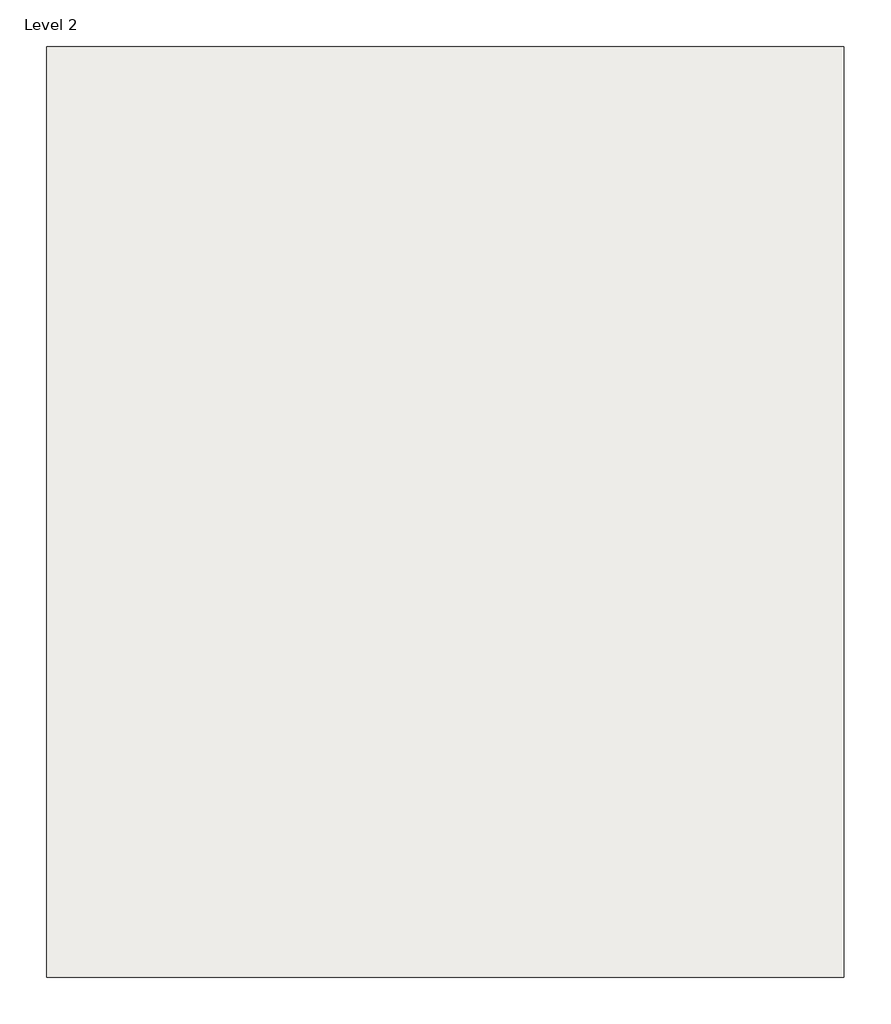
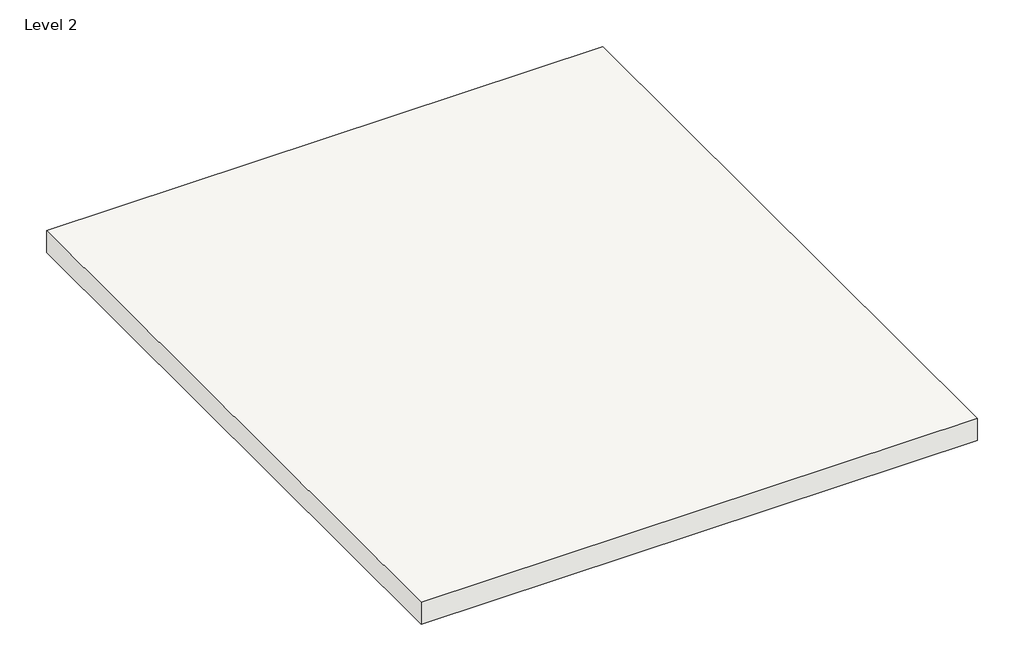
# One storey: 1 slab.
"""IFC4 building model written with IfcOpenShell, lengths in millimetres."""

from ifc_helpers import new_model, si_unit, origin, place, context, project, spatial, faceted_brep, element, save

model = new_model("IFC4")

# Units and contexts
model_context = context("Model", 3, world=origin())
ifc_project = project(units=[si_unit("LENGTHUNIT", "METRE", prefix="MILLI")], contexts=[model_context])

# Site, building, storey
site = spatial("IfcSite", under=ifc_project)
building = spatial("IfcBuilding", under=site)
storey = spatial("IfcBuildingStorey", under=building, Name="Level 2", Elevation=2550.0)

# Slab
placement = place(None, origin())
element("IfcSlab", 1, ObjectType="Generic 150mm", at=placement, inside=storey, context=model_context, shape_type="Brep", body=[
    faceted_brep([(-5713.7646331, 7438.1650236, 2400.0), (-5713.7646331, 3238.1650236, 2400.0), (-9313.7646331, 3238.1650236, 2400.0), (-9313.7646331, 7438.1650236, 2400.0), (-8480.6659036, 6398.741258, 2400.0), (-8480.6659036, 6298.741258, 2400.0), (-8380.6659036, 6298.741258, 2400.0), (-8380.6659036, 6398.741258, 2400.0), (-7300.6659036, 6378.741258, 2400.0), (-7300.6659036, 6278.741258, 2400.0), (-7200.6659036, 6278.741258, 2400.0), (-7200.6659036, 6378.741258, 2400.0), (-8480.6659036, 4238.741258, 2400.0), (-8480.6659036, 4138.741258, 2400.0), (-8380.6659036, 4138.741258, 2400.0), (-8380.6659036, 4238.741258, 2400.0), (-7300.6659036, 4218.741258, 2400.0), (-7300.6659036, 4118.741258, 2400.0), (-7200.6659036, 4118.741258, 2400.0), (-7200.6659036, 4218.741258, 2400.0), (-8480.6659036, 5658.741258, 2400.0), (-8480.6659036, 5558.741258, 2400.0), (-8380.6659036, 5558.741258, 2400.0), (-8380.6659036, 5658.741258, 2400.0), (-7300.6659036, 5638.741258, 2400.0), (-7300.6659036, 5538.741258, 2400.0), (-7200.6659036, 5538.741258, 2400.0), (-7200.6659036, 5638.741258, 2400.0), (-8480.6659036, 4898.741258, 2400.0), (-8480.6659036, 4798.741258, 2400.0), (-8380.6659036, 4798.741258, 2400.0), (-8380.6659036, 4898.741258, 2400.0), (-7300.6659036, 4878.741258, 2400.0), (-7300.6659036, 4778.741258, 2400.0), (-7200.6659036, 4778.741258, 2400.0), (-7200.6659036, 4878.741258, 2400.0), (-5713.7646331, 3238.1650236, 2550.0), (-5713.7646331, 7438.1650236, 2550.0), (-9313.7646331, 7438.1650236, 2550.0), (-9313.7646331, 3238.1650236, 2550.0), (-8480.6659036, 6298.741258, 2517.5000648), (-8480.6659036, 6398.741258, 2517.5000648), (-8380.6659036, 6398.741258, 2517.5000648), (-8380.6659036, 6298.741258, 2517.5000648), (-7300.6659036, 6278.741258, 2517.5000648), (-7300.6659036, 6378.741258, 2517.5000648), (-7200.6659036, 6378.741258, 2517.5000648), (-7200.6659036, 6278.741258, 2517.5000648), (-8480.6659036, 4138.741258, 2517.5000648), (-8480.6659036, 4238.741258, 2517.5000648), (-8380.6659036, 4238.741258, 2517.5000648), (-8380.6659036, 4138.741258, 2517.5000648), (-7300.6659036, 4118.741258, 2517.5000648), (-7300.6659036, 4218.741258, 2517.5000648), (-7200.6659036, 4218.741258, 2517.5000648), (-7200.6659036, 4118.741258, 2517.5000648), (-8480.6659036, 5558.741258, 2517.5000648), (-8480.6659036, 5658.741258, 2517.5000648), (-8380.6659036, 5658.741258, 2517.5000648), (-8380.6659036, 5558.741258, 2517.5000648), (-7300.6659036, 5538.741258, 2517.5000648), (-7300.6659036, 5638.741258, 2517.5000648), (-7200.6659036, 5638.741258, 2517.5000648), (-7200.6659036, 5538.741258, 2517.5000648), (-8480.6659036, 4798.741258, 2517.5000648), (-8480.6659036, 4898.741258, 2517.5000648), (-8380.6659036, 4898.741258, 2517.5000648), (-8380.6659036, 4798.741258, 2517.5000648), (-7300.6659036, 4778.741258, 2517.5000648), (-7300.6659036, 4878.741258, 2517.5000648), (-7200.6659036, 4878.741258, 2517.5000648), (-7200.6659036, 4778.741258, 2517.5000648)], [[[0, 1, 2, 3], [4, 5, 6, 7], [8, 9, 10, 11], [12, 13, 14, 15], [16, 17, 18, 19], [20, 21, 22, 23], [24, 25, 26, 27], [28, 29, 30, 31], [32, 33, 34, 35]], [[36, 37, 38, 39]], [[1, 0, 37, 36]], [[2, 1, 36, 39]], [[3, 2, 39, 38]], [[0, 3, 38, 37]], [[40, 41, 42, 43]], [[41, 40, 5, 4]], [[42, 41, 4, 7]], [[43, 42, 7, 6]], [[40, 43, 6, 5]], [[44, 45, 46, 47]], [[45, 44, 9, 8]], [[46, 45, 8, 11]], [[47, 46, 11, 10]], [[44, 47, 10, 9]], [[48, 49, 50, 51]], [[49, 48, 13, 12]], [[50, 49, 12, 15]], [[51, 50, 15, 14]], [[48, 51, 14, 13]], [[52, 53, 54, 55]], [[53, 52, 17, 16]], [[54, 53, 16, 19]], [[55, 54, 19, 18]], [[52, 55, 18, 17]], [[56, 57, 58, 59]], [[57, 56, 21, 20]], [[58, 57, 20, 23]], [[59, 58, 23, 22]], [[56, 59, 22, 21]], [[60, 61, 62, 63]], [[61, 60, 25, 24]], [[62, 61, 24, 27]], [[63, 62, 27, 26]], [[60, 63, 26, 25]], [[64, 65, 66, 67]], [[65, 64, 29, 28]], [[66, 65, 28, 31]], [[67, 66, 31, 30]], [[64, 67, 30, 29]], [[68, 69, 70, 71]], [[69, 68, 33, 32]], [[70, 69, 32, 35]], [[71, 70, 35, 34]], [[68, 71, 34, 33]]]),
])

save(model, "model.ifc")
